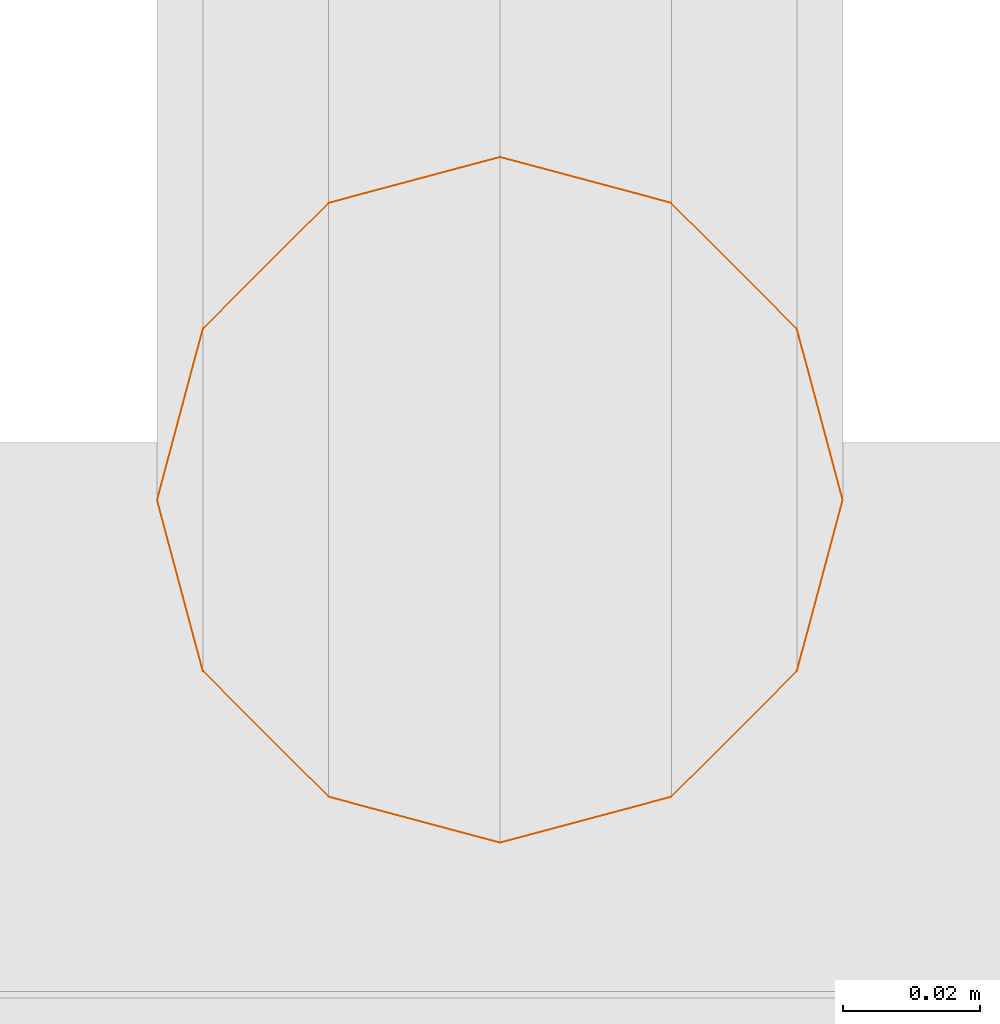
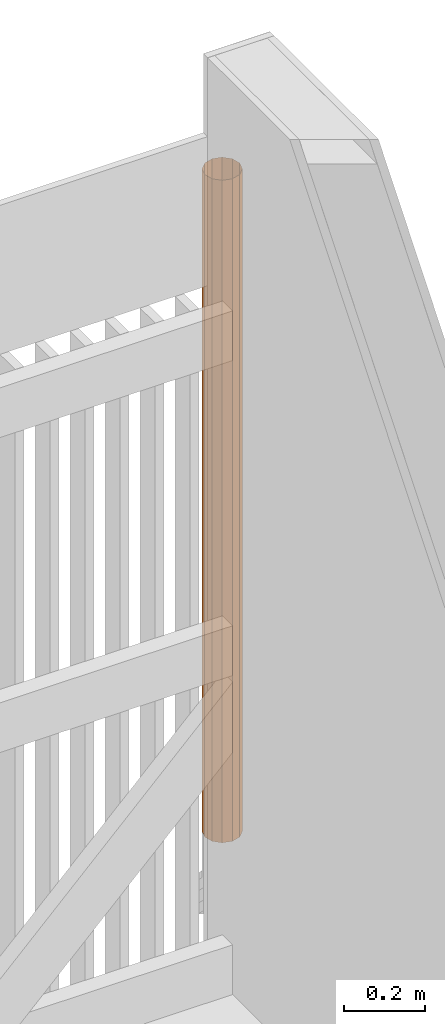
# One storey, part 359 of 418: 1 proxy.
"""IFC2X3 building model written with IfcOpenShell, lengths in millimetres."""

from ifc_helpers import new_model, entity, si_unit, converted_unit, derived_unit, money_unit, direction, frame, origin_with_axes, place, context, subcontext, project, spatial, open_shell, surface_model, source, transform, mapped, type_object, element, save


model = new_model("IFC2X3")

# Units and contexts
model_context = context("Model", 3, precision=0.01, world=origin_with_axes(), true_north=direction((0.0, 1.0)))
body_context = subcontext(model_context, "Body", "Model", "MODEL_VIEW")
ifc_project = project(units=[si_unit("LENGTHUNIT", "METRE", prefix="MILLI"), si_unit("AREAUNIT", "SQUARE_METRE"), si_unit("VOLUMEUNIT", "CUBIC_METRE"), converted_unit("PLANEANGLEUNIT", "DEGREE", entity("IfcPlaneAngleMeasure", 0.0174532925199), si_unit("PLANEANGLEUNIT", "RADIAN"), dimensions=[0, 0, 0, 0, 0, 0, 0]), si_unit("SOLIDANGLEUNIT", "STERADIAN"), money_unit("EUR"), converted_unit("TIMEUNIT", "Year", entity("IfcTimeMeasure", 31556926.0), si_unit("TIMEUNIT", "SECOND"), dimensions=[0, 0, 1, 0, 0, 0, 0]), si_unit("MASSUNIT", "GRAM", prefix="KILO"), si_unit("THERMODYNAMICTEMPERATUREUNIT", "DEGREE_CELSIUS"), si_unit("LUMINOUSINTENSITYUNIT", "LUMEN"), si_unit("ENERGYUNIT", "JOULE", prefix="MEGA"), derived_unit("THERMALCONDUCTANCEUNIT", [(si_unit("POWERUNIT", "WATT"), 1), (si_unit("LENGTHUNIT", "METRE"), -1), (si_unit("THERMODYNAMICTEMPERATUREUNIT", "KELVIN"), -1)]), derived_unit("SPECIFICHEATCAPACITYUNIT", [(si_unit("ENERGYUNIT", "JOULE"), 1), (si_unit("MASSUNIT", "GRAM", prefix="KILO"), -1), (si_unit("THERMODYNAMICTEMPERATUREUNIT", "KELVIN"), -1)]), derived_unit("MASSDENSITYUNIT", [(si_unit("MASSUNIT", "GRAM", prefix="KILO"), 1), (si_unit("VOLUMEUNIT", "CUBIC_METRE"), -1)])], contexts=[model_context])

# Site, building, storey
site_placement = place(None, origin_with_axes())
site = spatial("IfcSite", under=ifc_project, at=site_placement, Name="Paldiski mnt 245/1, Tallinn, Harjumaa", CompositionType="COMPLEX")
building_placement = place(site_placement, origin_with_axes())
building = spatial("IfcBuilding", under=site, at=building_placement, Name="RKAS Hoone üldnimetus (kasutust iseloomustav) -> IFC Project Manager -> SOLIBRI", CompositionType="ELEMENT")
storey_placement = place(building_placement, origin_with_axes())
storey = spatial("IfcBuildingStorey", under=building, at=storey_placement, Name="Esimene korrus", CompositionType="ELEMENT", Elevation=0.0)

# Proxy
building_element_proxy_type = type_object("IfcBuildingElementProxyType", Name="Downspout 23", PredefinedType="NOTDEFINED")
shared_shape = source(origin_with_axes(), body_context, "Body", "SurfaceModel", [
    surface_model("IfcShellBasedSurfaceModel", [(50.0, 0.0, 2000.0), (43.3012701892, -25.0, 2000.0), (43.3012701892, -25.0, 0.0), (50.0, 0.0, 0.0), (25.0, -43.3012701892, 2000.0), (25.0, -43.3012701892, 0.0), (43.3012701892, 25.0, 2000.0), (43.3012701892, 25.0, 0.0), (0.0, -50.0, 2000.0), (0.0, -50.0, 0.0), (25.0, 43.3012701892, 2000.0), (25.0, 43.3012701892, 0.0), (-25.0, -43.3012701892, 2000.0), (-25.0, -43.3012701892, 0.0), (0.0, 50.0, 2000.0), (0.0, 50.0, 0.0), (-43.3012701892, -25.0, 2000.0), (-43.3012701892, -25.0, 0.0), (-25.0, 43.3012701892, 2000.0), (-25.0, 43.3012701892, 0.0), (-50.0, 0.0, 2000.0), (-50.0, 0.0, 0.0), (-43.3012701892, 25.0, 2000.0), (-43.3012701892, 25.0, 0.0)], [open_shell([[[0, 1, 2, 3]], [[1, 4, 5, 2]], [[6, 0, 3, 7]], [[4, 8, 9, 5]], [[10, 6, 7, 11]], [[8, 12, 13, 9]], [[14, 10, 11, 15]], [[12, 16, 17, 13]], [[18, 14, 15, 19]], [[16, 20, 21, 17]], [[22, 18, 19, 23]], [[20, 22, 23, 21]]])]),
])
proxy_placement = place(storey_placement, frame((-7224.27180125, 14111.438141, -631.900357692), z_axis=(0.0, 0.0, 1.0), x_axis=(-1.0, 0.0, 0.0)))
element("IfcBuildingElementProxy", 1, at=proxy_placement, inside=storey, type_object=building_element_proxy_type, Name="Vihmaveetoru", context=body_context, shape_type="MappedRepresentation", body=[
    mapped(shared_shape, transform((0.0, 0.0, 0.0))),
])

save(model, "model.ifc")
